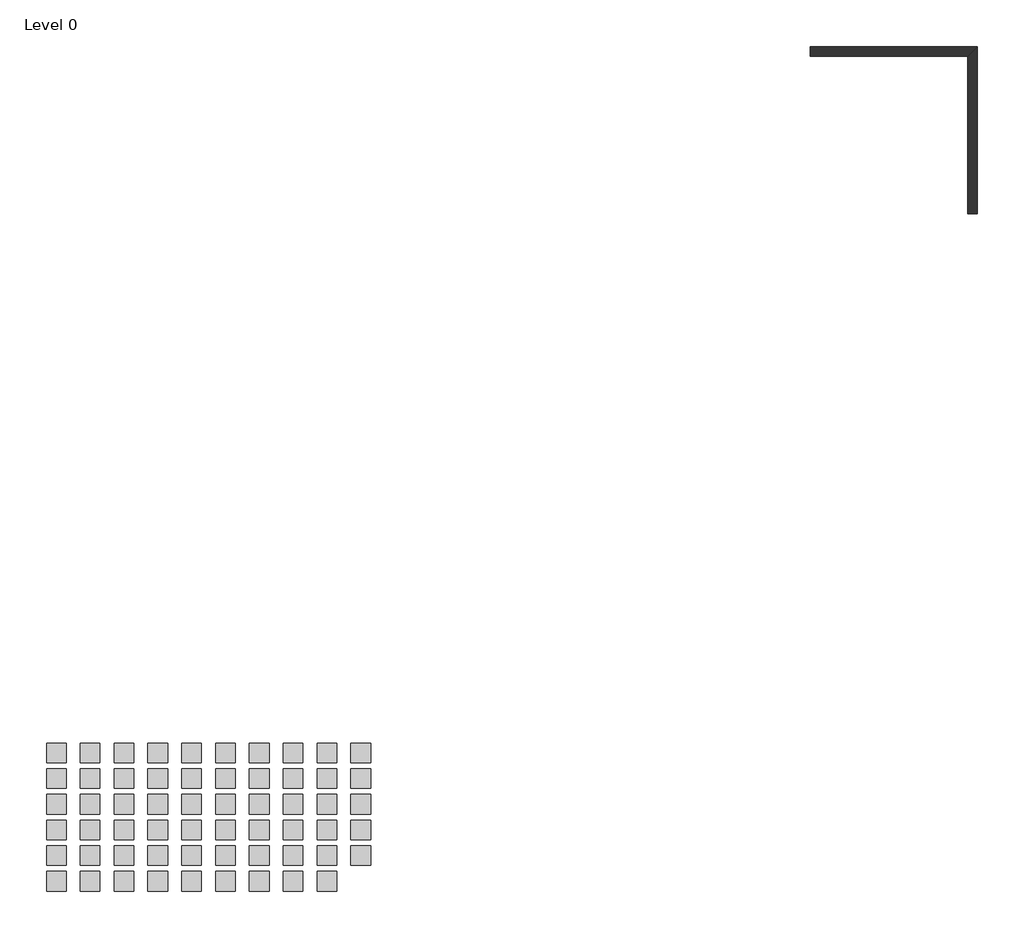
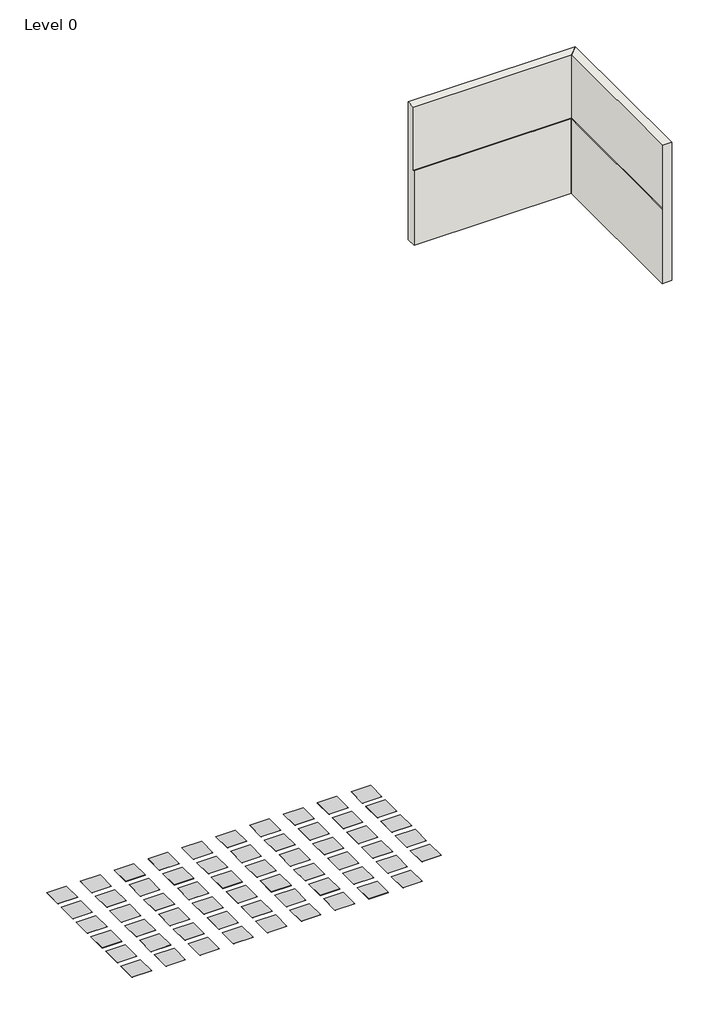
# One storey: 59 proxies, 2 walls.
"""IFC4 building model written with IfcOpenShell, lengths in millimetres."""

from ifc_helpers import new_model, si_unit, origin, place, context, project, spatial, faceted_brep, transform, mapped, element, save
from components import generic_models_93d01a9f

model = new_model("IFC4")

# Units and contexts
model_context = context("Model", 3, world=origin())
ifc_project = project(units=[si_unit("LENGTHUNIT", "METRE", prefix="MILLI")], contexts=[model_context])

# Site, building, storey
site = spatial("IfcSite", under=ifc_project)
building = spatial("IfcBuilding", under=site)
storey = spatial("IfcBuildingStorey", under=building, Name="Level 0", Elevation=0.0)

# Proxies
placement = place(None, origin())
generic_models_shape = generic_models_93d01a9f(model_context)
element("IfcBuildingElementProxy", 1, Name="Loggia_Placeholder : Loggia Placeholder", ObjectType="Loggia_Placeholder : Loggia Placeholder", at=placement, inside=storey, context=model_context, shape_type="MappedRepresentation", body=[
    mapped(generic_models_shape, transform((-9288.9154275, -10736.8813413, 0.0), x_axis=(1.0, 0.0, 0.0), y_axis=(0.0, 1.0, 0.0), z_axis=(0.0, 0.0, 1.0))),
])
element("IfcBuildingElementProxy", 2, Name="Loggia_Placeholder : Loggia Placeholder", ObjectType="Loggia_Placeholder : Loggia Placeholder", at=placement, inside=storey, context=model_context, shape_type="MappedRepresentation", body=[
    mapped(generic_models_shape, transform((-8685.7154275, -10736.8813413, 0.0), x_axis=(1.0, 0.0, 0.0), y_axis=(0.0, 1.0, 0.0), z_axis=(0.0, 0.0, 1.0))),
])
element("IfcBuildingElementProxy", 3, Name="Loggia_Placeholder : Loggia Placeholder", ObjectType="Loggia_Placeholder : Loggia Placeholder", at=placement, inside=storey, context=model_context, shape_type="MappedRepresentation", body=[
    mapped(generic_models_shape, transform((-8082.5154275, -10736.8813413, 0.0), x_axis=(1.0, 0.0, 0.0), y_axis=(0.0, 1.0, 0.0), z_axis=(0.0, 0.0, 1.0))),
])
element("IfcBuildingElementProxy", 4, Name="Loggia_Placeholder : Loggia Placeholder", ObjectType="Loggia_Placeholder : Loggia Placeholder", at=placement, inside=storey, context=model_context, shape_type="MappedRepresentation", body=[
    mapped(generic_models_shape, transform((-7479.3154275, -10736.8813413, 0.0), x_axis=(1.0, 0.0, 0.0), y_axis=(0.0, 1.0, 0.0), z_axis=(0.0, 0.0, 1.0))),
])
element("IfcBuildingElementProxy", 5, Name="Loggia_Placeholder : Loggia Placeholder", ObjectType="Loggia_Placeholder : Loggia Placeholder", at=placement, inside=storey, context=model_context, shape_type="MappedRepresentation", body=[
    mapped(generic_models_shape, transform((-6876.1154275, -10736.8813413, 0.0), x_axis=(1.0, 0.0, 0.0), y_axis=(0.0, 1.0, 0.0), z_axis=(0.0, 0.0, 1.0))),
])
element("IfcBuildingElementProxy", 6, Name="Loggia_Placeholder : Loggia Placeholder", ObjectType="Loggia_Placeholder : Loggia Placeholder", at=placement, inside=storey, context=model_context, shape_type="MappedRepresentation", body=[
    mapped(generic_models_shape, transform((-6272.9154275, -10736.8813413, 0.0), x_axis=(1.0, 0.0, 0.0), y_axis=(0.0, 1.0, 0.0), z_axis=(0.0, 0.0, 1.0))),
])
element("IfcBuildingElementProxy", 7, Name="Loggia_Placeholder : Loggia Placeholder", ObjectType="Loggia_Placeholder : Loggia Placeholder", at=placement, inside=storey, context=model_context, shape_type="MappedRepresentation", body=[
    mapped(generic_models_shape, transform((-5669.7154275, -10736.8813413, 0.0), x_axis=(1.0, 0.0, 0.0), y_axis=(0.0, 1.0, 0.0), z_axis=(0.0, 0.0, 1.0))),
])
element("IfcBuildingElementProxy", 8, Name="Loggia_Placeholder : Loggia Placeholder", ObjectType="Loggia_Placeholder : Loggia Placeholder", at=placement, inside=storey, context=model_context, shape_type="MappedRepresentation", body=[
    mapped(generic_models_shape, transform((-5066.5154275, -10736.8813413, 0.0), x_axis=(1.0, 0.0, 0.0), y_axis=(0.0, 1.0, 0.0), z_axis=(0.0, 0.0, 1.0))),
])
element("IfcBuildingElementProxy", 9, Name="Loggia_Placeholder : Loggia Placeholder", ObjectType="Loggia_Placeholder : Loggia Placeholder", at=placement, inside=storey, context=model_context, shape_type="MappedRepresentation", body=[
    mapped(generic_models_shape, transform((-4463.3154275, -10736.8813413, 0.0), x_axis=(1.0, 0.0, 0.0), y_axis=(0.0, 1.0, 0.0), z_axis=(0.0, 0.0, 1.0))),
])
element("IfcBuildingElementProxy", 10, Name="Loggia_Placeholder : Loggia Placeholder", ObjectType="Loggia_Placeholder : Loggia Placeholder", at=placement, inside=storey, context=model_context, shape_type="MappedRepresentation", body=[
    mapped(generic_models_shape, transform((-3860.1154275, -10736.8813413, 0.0), x_axis=(1.0, 0.0, 0.0), y_axis=(0.0, 1.0, 0.0), z_axis=(0.0, 0.0, 1.0))),
])
element("IfcBuildingElementProxy", 11, Name="Loggia_Placeholder : Loggia Placeholder", ObjectType="Loggia_Placeholder : Loggia Placeholder", at=placement, inside=storey, context=model_context, shape_type="MappedRepresentation", body=[
    mapped(generic_models_shape, transform((-9288.9154275, -11194.0813413, 0.0), x_axis=(1.0, 0.0, 0.0), y_axis=(0.0, 1.0, 0.0), z_axis=(0.0, 0.0, 1.0))),
])
element("IfcBuildingElementProxy", 12, Name="Loggia_Placeholder : Loggia Placeholder", ObjectType="Loggia_Placeholder : Loggia Placeholder", at=placement, inside=storey, context=model_context, shape_type="MappedRepresentation", body=[
    mapped(generic_models_shape, transform((-8685.7154275, -11194.0813413, 0.0), x_axis=(1.0, 0.0, 0.0), y_axis=(0.0, 1.0, 0.0), z_axis=(0.0, 0.0, 1.0))),
])
element("IfcBuildingElementProxy", 13, Name="Loggia_Placeholder : Loggia Placeholder", ObjectType="Loggia_Placeholder : Loggia Placeholder", at=placement, inside=storey, context=model_context, shape_type="MappedRepresentation", body=[
    mapped(generic_models_shape, transform((-8082.5154275, -11194.0813413, 0.0), x_axis=(1.0, 0.0, 0.0), y_axis=(0.0, 1.0, 0.0), z_axis=(0.0, 0.0, 1.0))),
])
element("IfcBuildingElementProxy", 14, Name="Loggia_Placeholder : Loggia Placeholder", ObjectType="Loggia_Placeholder : Loggia Placeholder", at=placement, inside=storey, context=model_context, shape_type="MappedRepresentation", body=[
    mapped(generic_models_shape, transform((-7479.3154275, -11194.0813413, 0.0), x_axis=(1.0, 0.0, 0.0), y_axis=(0.0, 1.0, 0.0), z_axis=(0.0, 0.0, 1.0))),
])
element("IfcBuildingElementProxy", 15, Name="Loggia_Placeholder : Loggia Placeholder", ObjectType="Loggia_Placeholder : Loggia Placeholder", at=placement, inside=storey, context=model_context, shape_type="MappedRepresentation", body=[
    mapped(generic_models_shape, transform((-6876.1154275, -11194.0813413, 0.0), x_axis=(1.0, 0.0, 0.0), y_axis=(0.0, 1.0, 0.0), z_axis=(0.0, 0.0, 1.0))),
])
element("IfcBuildingElementProxy", 16, Name="Loggia_Placeholder : Loggia Placeholder", ObjectType="Loggia_Placeholder : Loggia Placeholder", at=placement, inside=storey, context=model_context, shape_type="MappedRepresentation", body=[
    mapped(generic_models_shape, transform((-6272.9154275, -11194.0813413, 0.0), x_axis=(1.0, 0.0, 0.0), y_axis=(0.0, 1.0, 0.0), z_axis=(0.0, 0.0, 1.0))),
])
element("IfcBuildingElementProxy", 17, Name="Loggia_Placeholder : Loggia Placeholder", ObjectType="Loggia_Placeholder : Loggia Placeholder", at=placement, inside=storey, context=model_context, shape_type="MappedRepresentation", body=[
    mapped(generic_models_shape, transform((-5669.7154275, -11194.0813413, 0.0), x_axis=(1.0, 0.0, 0.0), y_axis=(0.0, 1.0, 0.0), z_axis=(0.0, 0.0, 1.0))),
])
element("IfcBuildingElementProxy", 18, Name="Loggia_Placeholder : Loggia Placeholder", ObjectType="Loggia_Placeholder : Loggia Placeholder", at=placement, inside=storey, context=model_context, shape_type="MappedRepresentation", body=[
    mapped(generic_models_shape, transform((-5066.5154275, -11194.0813413, 0.0), x_axis=(1.0, 0.0, 0.0), y_axis=(0.0, 1.0, 0.0), z_axis=(0.0, 0.0, 1.0))),
])
element("IfcBuildingElementProxy", 19, Name="Loggia_Placeholder : Loggia Placeholder", ObjectType="Loggia_Placeholder : Loggia Placeholder", at=placement, inside=storey, context=model_context, shape_type="MappedRepresentation", body=[
    mapped(generic_models_shape, transform((-4463.3154275, -11194.0813413, 0.0), x_axis=(1.0, 0.0, 0.0), y_axis=(0.0, 1.0, 0.0), z_axis=(0.0, 0.0, 1.0))),
])
element("IfcBuildingElementProxy", 20, Name="Loggia_Placeholder : Loggia Placeholder", ObjectType="Loggia_Placeholder : Loggia Placeholder", at=placement, inside=storey, context=model_context, shape_type="MappedRepresentation", body=[
    mapped(generic_models_shape, transform((-3860.1154275, -11194.0813413, 0.0), x_axis=(1.0, 0.0, 0.0), y_axis=(0.0, 1.0, 0.0), z_axis=(0.0, 0.0, 1.0))),
])
element("IfcBuildingElementProxy", 21, Name="Loggia_Placeholder : Loggia Placeholder", ObjectType="Loggia_Placeholder : Loggia Placeholder", at=placement, inside=storey, context=model_context, shape_type="MappedRepresentation", body=[
    mapped(generic_models_shape, transform((-9288.9154275, -11651.2813413, 0.0), x_axis=(1.0, 0.0, 0.0), y_axis=(0.0, 1.0, 0.0), z_axis=(0.0, 0.0, 1.0))),
])
element("IfcBuildingElementProxy", 22, Name="Loggia_Placeholder : Loggia Placeholder", ObjectType="Loggia_Placeholder : Loggia Placeholder", at=placement, inside=storey, context=model_context, shape_type="MappedRepresentation", body=[
    mapped(generic_models_shape, transform((-8685.7154275, -11651.2813413, 0.0), x_axis=(1.0, 0.0, 0.0), y_axis=(0.0, 1.0, 0.0), z_axis=(0.0, 0.0, 1.0))),
])
element("IfcBuildingElementProxy", 23, Name="Loggia_Placeholder : Loggia Placeholder", ObjectType="Loggia_Placeholder : Loggia Placeholder", at=placement, inside=storey, context=model_context, shape_type="MappedRepresentation", body=[
    mapped(generic_models_shape, transform((-8082.5154275, -11651.2813413, 0.0), x_axis=(1.0, 0.0, 0.0), y_axis=(0.0, 1.0, 0.0), z_axis=(0.0, 0.0, 1.0))),
])
element("IfcBuildingElementProxy", 24, Name="Loggia_Placeholder : Loggia Placeholder", ObjectType="Loggia_Placeholder : Loggia Placeholder", at=placement, inside=storey, context=model_context, shape_type="MappedRepresentation", body=[
    mapped(generic_models_shape, transform((-7479.3154275, -11651.2813413, 0.0), x_axis=(1.0, 0.0, 0.0), y_axis=(0.0, 1.0, 0.0), z_axis=(0.0, 0.0, 1.0))),
])
element("IfcBuildingElementProxy", 25, Name="Loggia_Placeholder : Loggia Placeholder", ObjectType="Loggia_Placeholder : Loggia Placeholder", at=placement, inside=storey, context=model_context, shape_type="MappedRepresentation", body=[
    mapped(generic_models_shape, transform((-6876.1154275, -11651.2813413, 0.0), x_axis=(1.0, 0.0, 0.0), y_axis=(0.0, 1.0, 0.0), z_axis=(0.0, 0.0, 1.0))),
])
element("IfcBuildingElementProxy", 26, Name="Loggia_Placeholder : Loggia Placeholder", ObjectType="Loggia_Placeholder : Loggia Placeholder", at=placement, inside=storey, context=model_context, shape_type="MappedRepresentation", body=[
    mapped(generic_models_shape, transform((-6272.9154275, -11651.2813413, 0.0), x_axis=(1.0, 0.0, 0.0), y_axis=(0.0, 1.0, 0.0), z_axis=(0.0, 0.0, 1.0))),
])
element("IfcBuildingElementProxy", 27, Name="Loggia_Placeholder : Loggia Placeholder", ObjectType="Loggia_Placeholder : Loggia Placeholder", at=placement, inside=storey, context=model_context, shape_type="MappedRepresentation", body=[
    mapped(generic_models_shape, transform((-5669.7154275, -11651.2813413, 0.0), x_axis=(1.0, 0.0, 0.0), y_axis=(0.0, 1.0, 0.0), z_axis=(0.0, 0.0, 1.0))),
])
element("IfcBuildingElementProxy", 28, Name="Loggia_Placeholder : Loggia Placeholder", ObjectType="Loggia_Placeholder : Loggia Placeholder", at=placement, inside=storey, context=model_context, shape_type="MappedRepresentation", body=[
    mapped(generic_models_shape, transform((-5066.5154275, -11651.2813413, 0.0), x_axis=(1.0, 0.0, 0.0), y_axis=(0.0, 1.0, 0.0), z_axis=(0.0, 0.0, 1.0))),
])
element("IfcBuildingElementProxy", 29, Name="Loggia_Placeholder : Loggia Placeholder", ObjectType="Loggia_Placeholder : Loggia Placeholder", at=placement, inside=storey, context=model_context, shape_type="MappedRepresentation", body=[
    mapped(generic_models_shape, transform((-4463.3154275, -11651.2813413, 0.0), x_axis=(1.0, 0.0, 0.0), y_axis=(0.0, 1.0, 0.0), z_axis=(0.0, 0.0, 1.0))),
])
element("IfcBuildingElementProxy", 30, Name="Loggia_Placeholder : Loggia Placeholder", ObjectType="Loggia_Placeholder : Loggia Placeholder", at=placement, inside=storey, context=model_context, shape_type="MappedRepresentation", body=[
    mapped(generic_models_shape, transform((-3860.1154275, -11651.2813413, 0.0), x_axis=(1.0, 0.0, 0.0), y_axis=(0.0, 1.0, 0.0), z_axis=(0.0, 0.0, 1.0))),
])
element("IfcBuildingElementProxy", 31, Name="Loggia_Placeholder : Loggia Placeholder", ObjectType="Loggia_Placeholder : Loggia Placeholder", at=placement, inside=storey, context=model_context, shape_type="MappedRepresentation", body=[
    mapped(generic_models_shape, transform((-9288.9154275, -12108.4813413, 0.0), x_axis=(1.0, 0.0, 0.0), y_axis=(0.0, 1.0, 0.0), z_axis=(0.0, 0.0, 1.0))),
])
element("IfcBuildingElementProxy", 32, Name="Loggia_Placeholder : Loggia Placeholder", ObjectType="Loggia_Placeholder : Loggia Placeholder", at=placement, inside=storey, context=model_context, shape_type="MappedRepresentation", body=[
    mapped(generic_models_shape, transform((-8685.7154275, -12108.4813413, 0.0), x_axis=(1.0, 0.0, 0.0), y_axis=(0.0, 1.0, 0.0), z_axis=(0.0, 0.0, 1.0))),
])
element("IfcBuildingElementProxy", 33, Name="Loggia_Placeholder : Loggia Placeholder", ObjectType="Loggia_Placeholder : Loggia Placeholder", at=placement, inside=storey, context=model_context, shape_type="MappedRepresentation", body=[
    mapped(generic_models_shape, transform((-8082.5154275, -12108.4813413, 0.0), x_axis=(1.0, 0.0, 0.0), y_axis=(0.0, 1.0, 0.0), z_axis=(0.0, 0.0, 1.0))),
])
element("IfcBuildingElementProxy", 34, Name="Loggia_Placeholder : Loggia Placeholder", ObjectType="Loggia_Placeholder : Loggia Placeholder", at=placement, inside=storey, context=model_context, shape_type="MappedRepresentation", body=[
    mapped(generic_models_shape, transform((-7479.3154275, -12108.4813413, 0.0), x_axis=(1.0, 0.0, 0.0), y_axis=(0.0, 1.0, 0.0), z_axis=(0.0, 0.0, 1.0))),
])
element("IfcBuildingElementProxy", 35, Name="Loggia_Placeholder : Loggia Placeholder", ObjectType="Loggia_Placeholder : Loggia Placeholder", at=placement, inside=storey, context=model_context, shape_type="MappedRepresentation", body=[
    mapped(generic_models_shape, transform((-6876.1154275, -12108.4813413, 0.0), x_axis=(1.0, 0.0, 0.0), y_axis=(0.0, 1.0, 0.0), z_axis=(0.0, 0.0, 1.0))),
])
element("IfcBuildingElementProxy", 36, Name="Loggia_Placeholder : Loggia Placeholder", ObjectType="Loggia_Placeholder : Loggia Placeholder", at=placement, inside=storey, context=model_context, shape_type="MappedRepresentation", body=[
    mapped(generic_models_shape, transform((-6272.9154275, -12108.4813413, 0.0), x_axis=(1.0, 0.0, 0.0), y_axis=(0.0, 1.0, 0.0), z_axis=(0.0, 0.0, 1.0))),
])
element("IfcBuildingElementProxy", 37, Name="Loggia_Placeholder : Loggia Placeholder", ObjectType="Loggia_Placeholder : Loggia Placeholder", at=placement, inside=storey, context=model_context, shape_type="MappedRepresentation", body=[
    mapped(generic_models_shape, transform((-5669.7154275, -12108.4813413, 0.0), x_axis=(1.0, 0.0, 0.0), y_axis=(0.0, 1.0, 0.0), z_axis=(0.0, 0.0, 1.0))),
])
element("IfcBuildingElementProxy", 38, Name="Loggia_Placeholder : Loggia Placeholder", ObjectType="Loggia_Placeholder : Loggia Placeholder", at=placement, inside=storey, context=model_context, shape_type="MappedRepresentation", body=[
    mapped(generic_models_shape, transform((-5066.5154275, -12108.4813413, 0.0), x_axis=(1.0, 0.0, 0.0), y_axis=(0.0, 1.0, 0.0), z_axis=(0.0, 0.0, 1.0))),
])
element("IfcBuildingElementProxy", 39, Name="Loggia_Placeholder : Loggia Placeholder", ObjectType="Loggia_Placeholder : Loggia Placeholder", at=placement, inside=storey, context=model_context, shape_type="MappedRepresentation", body=[
    mapped(generic_models_shape, transform((-4463.3154275, -12108.4813413, 0.0), x_axis=(1.0, 0.0, 0.0), y_axis=(0.0, 1.0, 0.0), z_axis=(0.0, 0.0, 1.0))),
])
element("IfcBuildingElementProxy", 40, Name="Loggia_Placeholder : Loggia Placeholder", ObjectType="Loggia_Placeholder : Loggia Placeholder", at=placement, inside=storey, context=model_context, shape_type="MappedRepresentation", body=[
    mapped(generic_models_shape, transform((-3860.1154275, -12108.4813413, 0.0), x_axis=(1.0, 0.0, 0.0), y_axis=(0.0, 1.0, 0.0), z_axis=(0.0, 0.0, 1.0))),
])
element("IfcBuildingElementProxy", 41, Name="Loggia_Placeholder : Loggia Placeholder", ObjectType="Loggia_Placeholder : Loggia Placeholder", at=placement, inside=storey, context=model_context, shape_type="MappedRepresentation", body=[
    mapped(generic_models_shape, transform((-9288.9154275, -12565.6813413, 0.0), x_axis=(1.0, 0.0, 0.0), y_axis=(0.0, 1.0, 0.0), z_axis=(0.0, 0.0, 1.0))),
])
element("IfcBuildingElementProxy", 42, Name="Loggia_Placeholder : Loggia Placeholder", ObjectType="Loggia_Placeholder : Loggia Placeholder", at=placement, inside=storey, context=model_context, shape_type="MappedRepresentation", body=[
    mapped(generic_models_shape, transform((-8685.7154275, -12565.6813413, 0.0), x_axis=(1.0, 0.0, 0.0), y_axis=(0.0, 1.0, 0.0), z_axis=(0.0, 0.0, 1.0))),
])
element("IfcBuildingElementProxy", 43, Name="Loggia_Placeholder : Loggia Placeholder", ObjectType="Loggia_Placeholder : Loggia Placeholder", at=placement, inside=storey, context=model_context, shape_type="MappedRepresentation", body=[
    mapped(generic_models_shape, transform((-8082.5154275, -12565.6813413, 0.0), x_axis=(1.0, 0.0, 0.0), y_axis=(0.0, 1.0, 0.0), z_axis=(0.0, 0.0, 1.0))),
])
element("IfcBuildingElementProxy", 44, Name="Loggia_Placeholder : Loggia Placeholder", ObjectType="Loggia_Placeholder : Loggia Placeholder", at=placement, inside=storey, context=model_context, shape_type="MappedRepresentation", body=[
    mapped(generic_models_shape, transform((-7479.3154275, -12565.6813413, 0.0), x_axis=(1.0, 0.0, 0.0), y_axis=(0.0, 1.0, 0.0), z_axis=(0.0, 0.0, 1.0))),
])
element("IfcBuildingElementProxy", 45, Name="Loggia_Placeholder : Loggia Placeholder", ObjectType="Loggia_Placeholder : Loggia Placeholder", at=placement, inside=storey, context=model_context, shape_type="MappedRepresentation", body=[
    mapped(generic_models_shape, transform((-6876.1154275, -12565.6813413, 0.0), x_axis=(1.0, 0.0, 0.0), y_axis=(0.0, 1.0, 0.0), z_axis=(0.0, 0.0, 1.0))),
])
element("IfcBuildingElementProxy", 46, Name="Loggia_Placeholder : Loggia Placeholder", ObjectType="Loggia_Placeholder : Loggia Placeholder", at=placement, inside=storey, context=model_context, shape_type="MappedRepresentation", body=[
    mapped(generic_models_shape, transform((-6272.9154275, -12565.6813413, 0.0), x_axis=(1.0, 0.0, 0.0), y_axis=(0.0, 1.0, 0.0), z_axis=(0.0, 0.0, 1.0))),
])
element("IfcBuildingElementProxy", 47, Name="Loggia_Placeholder : Loggia Placeholder", ObjectType="Loggia_Placeholder : Loggia Placeholder", at=placement, inside=storey, context=model_context, shape_type="MappedRepresentation", body=[
    mapped(generic_models_shape, transform((-5669.7154275, -12565.6813413, 0.0), x_axis=(1.0, 0.0, 0.0), y_axis=(0.0, 1.0, 0.0), z_axis=(0.0, 0.0, 1.0))),
])
element("IfcBuildingElementProxy", 48, Name="Loggia_Placeholder : Loggia Placeholder", ObjectType="Loggia_Placeholder : Loggia Placeholder", at=placement, inside=storey, context=model_context, shape_type="MappedRepresentation", body=[
    mapped(generic_models_shape, transform((-5066.5154275, -12565.6813413, 0.0), x_axis=(1.0, 0.0, 0.0), y_axis=(0.0, 1.0, 0.0), z_axis=(0.0, 0.0, 1.0))),
])
element("IfcBuildingElementProxy", 49, Name="Loggia_Placeholder : Loggia Placeholder", ObjectType="Loggia_Placeholder : Loggia Placeholder", at=placement, inside=storey, context=model_context, shape_type="MappedRepresentation", body=[
    mapped(generic_models_shape, transform((-4463.3154275, -12565.6813413, 0.0), x_axis=(1.0, 0.0, 0.0), y_axis=(0.0, 1.0, 0.0), z_axis=(0.0, 0.0, 1.0))),
])
element("IfcBuildingElementProxy", 50, Name="Loggia_Placeholder : Loggia Placeholder", ObjectType="Loggia_Placeholder : Loggia Placeholder", at=placement, inside=storey, context=model_context, shape_type="MappedRepresentation", body=[
    mapped(generic_models_shape, transform((-3860.1154275, -12565.6813413, 0.0), x_axis=(1.0, 0.0, 0.0), y_axis=(0.0, 1.0, 0.0), z_axis=(0.0, 0.0, 1.0))),
])
element("IfcBuildingElementProxy", 51, Name="Loggia_Placeholder : Loggia Placeholder", ObjectType="Loggia_Placeholder : Loggia Placeholder", at=placement, inside=storey, context=model_context, shape_type="MappedRepresentation", body=[
    mapped(generic_models_shape, transform((-9288.9154275, -13022.8813413, 0.0), x_axis=(1.0, 0.0, 0.0), y_axis=(0.0, 1.0, 0.0), z_axis=(0.0, 0.0, 1.0))),
])
element("IfcBuildingElementProxy", 52, Name="Loggia_Placeholder : Loggia Placeholder", ObjectType="Loggia_Placeholder : Loggia Placeholder", at=placement, inside=storey, context=model_context, shape_type="MappedRepresentation", body=[
    mapped(generic_models_shape, transform((-8685.7154275, -13022.8813413, 0.0), x_axis=(1.0, 0.0, 0.0), y_axis=(0.0, 1.0, 0.0), z_axis=(0.0, 0.0, 1.0))),
])
element("IfcBuildingElementProxy", 53, Name="Loggia_Placeholder : Loggia Placeholder", ObjectType="Loggia_Placeholder : Loggia Placeholder", at=placement, inside=storey, context=model_context, shape_type="MappedRepresentation", body=[
    mapped(generic_models_shape, transform((-8082.5154275, -13022.8813413, 0.0), x_axis=(1.0, 0.0, 0.0), y_axis=(0.0, 1.0, 0.0), z_axis=(0.0, 0.0, 1.0))),
])
element("IfcBuildingElementProxy", 54, Name="Loggia_Placeholder : Loggia Placeholder", ObjectType="Loggia_Placeholder : Loggia Placeholder", at=placement, inside=storey, context=model_context, shape_type="MappedRepresentation", body=[
    mapped(generic_models_shape, transform((-7479.3154275, -13022.8813413, 0.0), x_axis=(1.0, 0.0, 0.0), y_axis=(0.0, 1.0, 0.0), z_axis=(0.0, 0.0, 1.0))),
])
element("IfcBuildingElementProxy", 55, Name="Loggia_Placeholder : Loggia Placeholder", ObjectType="Loggia_Placeholder : Loggia Placeholder", at=placement, inside=storey, context=model_context, shape_type="MappedRepresentation", body=[
    mapped(generic_models_shape, transform((-6876.1154275, -13022.8813413, 0.0), x_axis=(1.0, 0.0, 0.0), y_axis=(0.0, 1.0, 0.0), z_axis=(0.0, 0.0, 1.0))),
])
element("IfcBuildingElementProxy", 56, Name="Loggia_Placeholder : Loggia Placeholder", ObjectType="Loggia_Placeholder : Loggia Placeholder", at=placement, inside=storey, context=model_context, shape_type="MappedRepresentation", body=[
    mapped(generic_models_shape, transform((-6272.9154275, -13022.8813413, 0.0), x_axis=(1.0, 0.0, 0.0), y_axis=(0.0, 1.0, 0.0), z_axis=(0.0, 0.0, 1.0))),
])
element("IfcBuildingElementProxy", 57, Name="Loggia_Placeholder : Loggia Placeholder", ObjectType="Loggia_Placeholder : Loggia Placeholder", at=placement, inside=storey, context=model_context, shape_type="MappedRepresentation", body=[
    mapped(generic_models_shape, transform((-5669.7154275, -13022.8813413, 0.0), x_axis=(1.0, 0.0, 0.0), y_axis=(0.0, 1.0, 0.0), z_axis=(0.0, 0.0, 1.0))),
])
element("IfcBuildingElementProxy", 58, Name="Loggia_Placeholder : Loggia Placeholder", ObjectType="Loggia_Placeholder : Loggia Placeholder", at=placement, inside=storey, context=model_context, shape_type="MappedRepresentation", body=[
    mapped(generic_models_shape, transform((-5066.5154275, -13022.8813413, 0.0), x_axis=(1.0, 0.0, 0.0), y_axis=(0.0, 1.0, 0.0), z_axis=(0.0, 0.0, 1.0))),
])
element("IfcBuildingElementProxy", 59, Name="Loggia_Placeholder : Loggia Placeholder", ObjectType="Loggia_Placeholder : Loggia Placeholder", at=placement, inside=storey, context=model_context, shape_type="MappedRepresentation", body=[
    mapped(generic_models_shape, transform((-4463.3154275, -13022.8813413, 0.0), x_axis=(1.0, 0.0, 0.0), y_axis=(0.0, 1.0, 0.0), z_axis=(0.0, 0.0, 1.0))),
])

# Walls
element("IfcWall", 60, ObjectType="Wall_Generic_Loggia-Showcase", at=placement, inside=storey, context=model_context, shape_type="Brep", body=[
    faceted_brep([(4160.5903752, 1688.5585818, 0.0), (6964.5903752, 1688.5585818, 0.0), (6964.5903752, 1688.5585818, 1406.4126577), (4160.5903752, 1688.5585818, 1406.4126577), (4160.5903752, 1864.5585818, 0.0), (4160.5903752, 1864.5585818, 2600.0), (7140.5903752, 1864.5585818, 2600.0), (7140.5903752, 1864.5585818, 0.0), (4160.5903752, 1704.5585818, 1406.4126577), (4160.5903752, 1704.5585818, 2600.0), (6980.5903752, 1704.5585818, 2600.0), (6980.5903752, 1704.5585818, 1406.4126577)], [[[0, 1, 2, 3]], [[4, 5, 6, 7]], [[1, 0, 4, 7]], [[0, 3, 8, 9, 5, 4]], [[10, 6, 5, 9]], [[8, 11, 10, 9]], [[3, 2, 11, 8]], [[2, 1, 7, 6, 10, 11]]]),
])
element("IfcWall", 61, ObjectType="Wall_Generic_Loggia-Showcase", at=placement, inside=storey, context=model_context, shape_type="Brep", body=[
    faceted_brep([(6964.5903752, 1688.5585818, 0.0), (6964.5903752, -1115.4414182, 0.0), (6964.5903752, -1115.4414182, 1406.4126577), (6964.5903752, 1688.5585818, 1406.4126577), (7140.5903752, 1864.5585818, 0.0), (7140.5903752, 1864.5585818, 2600.0), (7140.5903752, -1115.4414182, 2600.0), (7140.5903752, -1115.4414182, 0.0), (6980.5903752, -1115.4414182, 2600.0), (6980.5903752, -1115.4414182, 1406.4126577), (6980.5903752, 1704.5585818, 2600.0), (6980.5903752, 1704.5585818, 1406.4126577)], [[[0, 1, 2, 3]], [[4, 5, 6, 7]], [[1, 0, 4, 7]], [[2, 1, 7, 6, 8, 9]], [[8, 6, 5, 10]], [[11, 9, 8, 10]], [[3, 2, 9, 11]], [[0, 3, 11, 10, 5, 4]]]),
])

save(model, "model.ifc")
